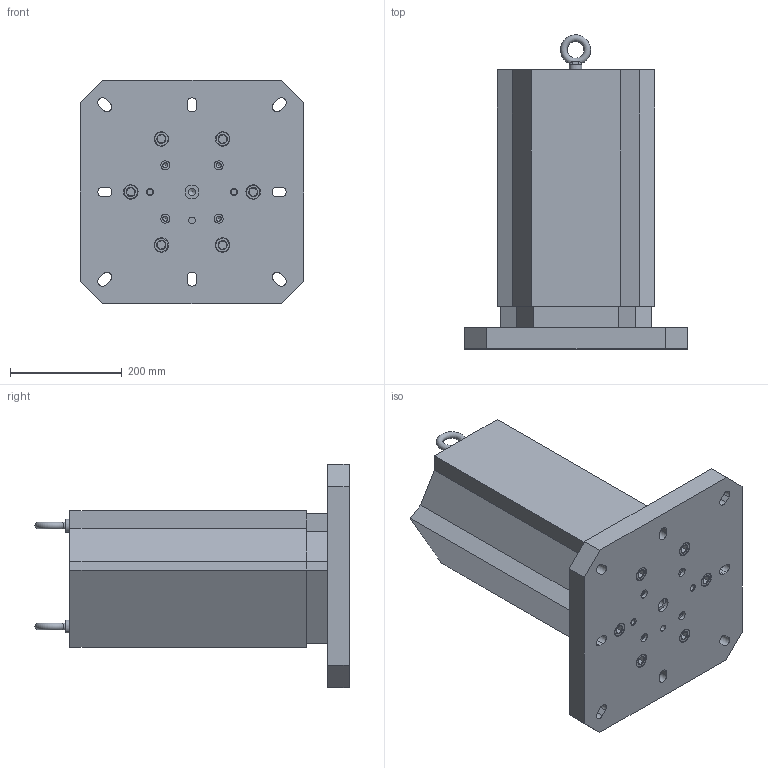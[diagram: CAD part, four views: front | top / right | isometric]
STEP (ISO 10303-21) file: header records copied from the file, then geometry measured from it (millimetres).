
FILE_DESCRIPTION (( 'STEP AP214' ), '1' );
FILE_NAME ('MTA-4003U-500_WEBSITE.step', '2025-08-11T12:25:38', ( '' ), ( '' ), 'SwSTEP 2.0', 'SolidWorks 2024', '' );
FILE_SCHEMA (( 'AUTOMOTIVE_DESIGN' ));
Length unit declared in the file: millimetre
Products named in the file (7): MT-3462A_WEBSITE_MACHINABLE TOWER; RL96-14TC_WEBSITE; RL96-4003BUA_WEBSITE; M12X24MM.EB (McM 3040T15)_WEBSITE_3040T15; HW.76452_dev_WEBSITE_91290A835; MTA-4003U-500_WEBSITE; HW.76172_WEBSITE
Assembly tree (15 placements, depth 2):
  MTA-4003U-500_WEBSITE
    RL96-4003BUA_WEBSITE
    MT-3462A_WEBSITE_MACHINABLE TOWER
    RL96-14TC_WEBSITE
    M12X24MM.EB (McM 3040T15)_WEBSITE_3040T15  x2
    HW.76172_WEBSITE  x4
    HW.76452_dev_WEBSITE_91290A835  x6
Bounding box: 400 x 562.89 x 400 mm (x, y, z)
Volume: 20392774 mm3; surface area: 1204619 mm2
Topology: 15 solids, 15 shells, 517 faces, 1136 edges, 703 vertices
Faces by surface type: plane 268, cylinder 140, cone 107, torus 2
Full cylindrical faces by diameter (mm): 5 x4, 6 x4, 6.6 x4, 8.5 x4, 10 x4, 10.025 x4, 10.2 x4, 11 x4, 12 x3, 14 x7, 16 x6, 16.02 x4, 17.5 x12, 23 x2, 24 x6, 25.025 x1, 26 x6, 139.7 x1
Entity records: 10718 total; most frequent: CARTESIAN_POINT 1835, DIRECTION 1724, ORIENTED_EDGE 1428, EDGE_CURVE 714, AXIS2_PLACEMENT_3D 655, EDGE_LOOP 548, VERTEX_POINT 516, FACE_OUTER_BOUND 418
